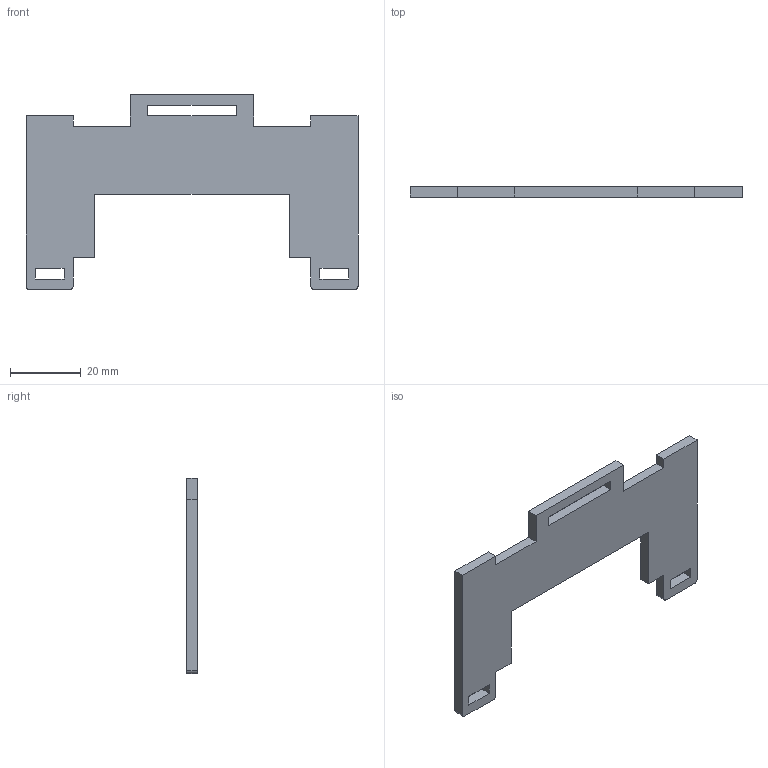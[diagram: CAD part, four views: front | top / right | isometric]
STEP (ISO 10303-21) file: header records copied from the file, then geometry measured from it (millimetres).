
FILE_DESCRIPTION(('FreeCAD Model'),'2;1');
FILE_NAME('Open CASCADE Shape Model','2024-06-26T11:40:51',('FreeCAD'),( 'FreeCAD'),'Open CASCADE STEP processor 7.6','FreeCAD','Unknown');
FILE_SCHEMA(('AUTOMOTIVE_DESIGN { 1 0 10303 214 1 1 1 1 }'));
Length unit declared in the file: millimetre
Products named in the file (1): Open CASCADE STEP translator 7.6 16
Bounding box: 94 x 3 x 55.3 mm (x, y, z)
Volume: 9058.9 mm3; surface area: 7431.2 mm2
Topology: 1 solids, 1 shells, 38 faces, 108 edges, 72 vertices
Faces by surface type: plane 34, cylinder 4
Entity records: 1242 total; most frequent: CARTESIAN_POINT 219, ORIENTED_EDGE 216, DIRECTION 194, EDGE_CURVE 108, LINE 100, VECTOR 100, VERTEX_POINT 72, AXIS2_PLACEMENT_3D 47
